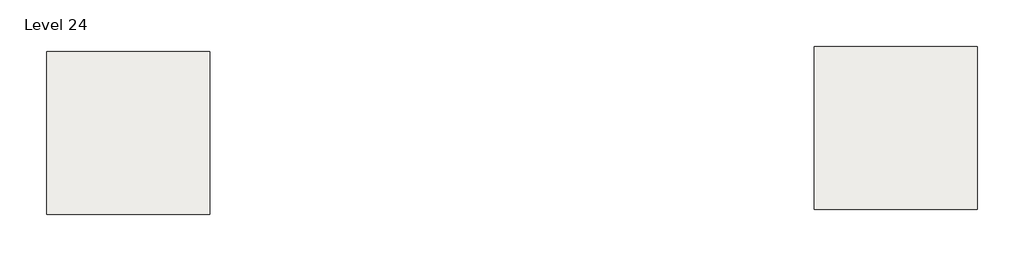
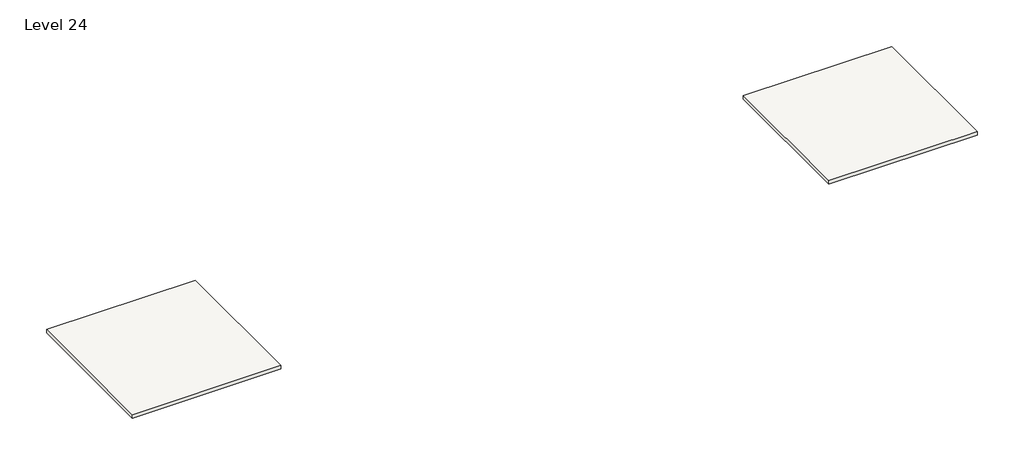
# One storey: 2 slabs.
"""IFC4 building model written with IfcOpenShell, lengths in millimetres."""

from ifc_helpers import new_model, si_unit, frame, origin, place, context, project, spatial, polyline, outline, extrude, element, save

model = new_model("IFC4")

# Units and contexts
model_context = context("Model", 3, world=origin())
ifc_project = project(units=[si_unit("LENGTHUNIT", "METRE", prefix="MILLI")], contexts=[model_context])

# Site, building, storey
site = spatial("IfcSite", under=ifc_project)
building = spatial("IfcBuilding", under=site)
storey = spatial("IfcBuildingStorey", under=building, Name="Level 24", Elevation=70104.0)

# Slabs
placement = place(None, origin())
element("IfcSlab", 1, ObjectType="Generic - 12\"", at=placement, inside=storey, context=model_context, shape_type="SweptSolid", body=[
    extrude(outline(polyline([(-19315.4161695, 7973.9495511), (-7123.4161695, 7973.9495511), (-7123.4161695, -4218.0504489), (-19315.4161695, -4218.0504489), (-19315.4161695, 7973.9495511)])), frame((0.0, 0.0, 69799.2), z_axis=(0.0, 0.0, 1.0), x_axis=(1.0, 0.0, 0.0)), (0.0, 0.0, 1.0), 304.8),
])
element("IfcSlab", 2, ObjectType="Generic - 12\"", at=placement, inside=storey, context=model_context, shape_type="SweptSolid", body=[
    extrude(outline(polyline([(38118.2903978, 8351.0904402), (50310.2903978, 8351.0904402), (50310.2903978, -3840.9095598), (38118.2903978, -3840.9095598), (38118.2903978, 8351.0904402)])), frame((0.0, 0.0, 69799.2), z_axis=(0.0, 0.0, 1.0), x_axis=(1.0, 0.0, 0.0)), (0.0, 0.0, 1.0), 304.8),
])

save(model, "model.ifc")
